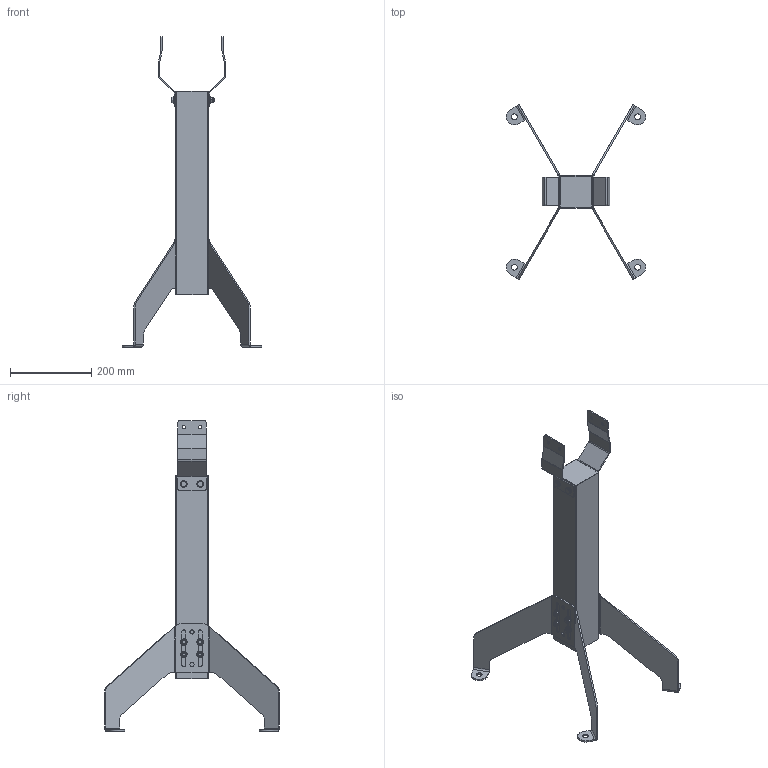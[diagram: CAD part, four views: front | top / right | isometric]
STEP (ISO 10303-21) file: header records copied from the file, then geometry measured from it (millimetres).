
FILE_DESCRIPTION(/* description */ ('LEG SUPPORT S540'),/* implementation_level */ '2;1');
FILE_NAME(/* name */ '500-1375.stp',/* time_stamp */ '2022-09-16T09:40:50+02:00',/* author */ ('PL'),/* organization */ ('CARRYLINE'),/* preprocessor_version */ 'ST-DEVELOPER v19.2',/* originating_system */ 'Autodesk Inventor 2023',/* authorisation */ '');
FILE_SCHEMA (('AUTOMOTIVE_DESIGN { 1 0 10303 214 3 1 1 }'));
Length unit declared in the file: millimetre
Products named in the file (8): 500-1375; 500-1232; 500-1030; 5540-8; 5501-8100; WELDING BOLT M8x16; 5552-8; 500-1155
Assembly tree (37 placements, depth 2):
  500-1375
    500-1232  x2
    500-1030
    5540-8  x12
    5501-8100  x2
    5552-8  x10
    WELDING BOLT M8x16  x8
    500-1155  x2
Bounding box: 342.35 x 429.19 x 762.95 mm (x, y, z)
Volume: 844549.9 mm3; surface area: 624642.9 mm2
Topology: 37 solids, 37 shells, 453 faces, 1072 edges, 698 vertices
Faces by surface type: plane 231, cylinder 148, cone 70, bspline 4
Full cylindrical faces by diameter (mm): 6.647 x10, 8 x10, 8.2 x8, 8.4 x12, 9 x4, 10 x4, 11.6 x10, 11.63 x2, 14.2 x4, 16 x12
Entity records: 5168 total; most frequent: CARTESIAN_POINT 1040, DIRECTION 846, ORIENTED_EDGE 742, EDGE_CURVE 371, AXIS2_PLACEMENT_3D 315, VERTEX_POINT 243, LINE 216, VECTOR 216
